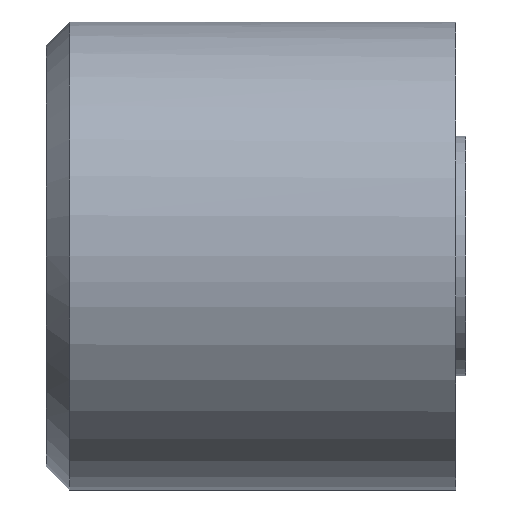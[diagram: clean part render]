
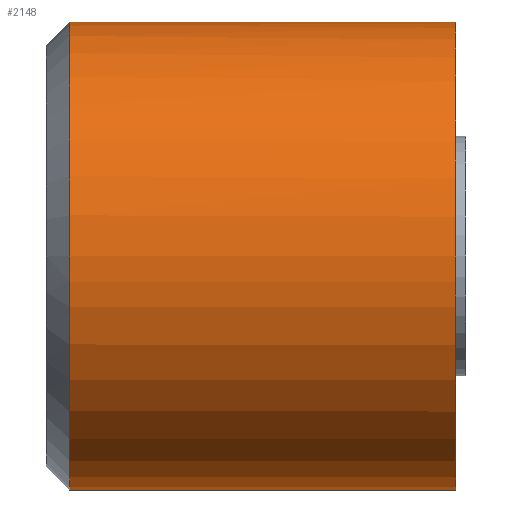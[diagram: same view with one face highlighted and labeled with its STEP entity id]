
A CAD part, front view. The second image highlights one B-rep face of the part: STEP entity #2148.
In plain terms, the highlighted cylindrical face has radius 8 mm (diameter 16 mm), a partial arc.
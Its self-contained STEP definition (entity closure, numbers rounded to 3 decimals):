
#124=CARTESIAN_POINT('Vertex',(0.,0.,-8.)) ;
#130=CARTESIAN_POINT('Control Point',(0.,-8.,0.)) ;
#131=CARTESIAN_POINT('Control Point',(0.,-8.,-0.831)) ;
#132=CARTESIAN_POINT('Control Point',(0.,-7.892,-1.663)) ;
#133=CARTESIAN_POINT('Control Point',(0.,-7.676,-2.475)) ;
#134=CARTESIAN_POINT('Control Point',(0.,-7.038,-4.026)) ;
#135=CARTESIAN_POINT('Control Point',(0.,-6.025,-5.362)) ;
#136=CARTESIAN_POINT('Control Point',(0.,-5.434,-5.96)) ;
#137=CARTESIAN_POINT('Control Point',(0.,-4.11,-6.989)) ;
#138=CARTESIAN_POINT('Control Point',(0.,-2.567,-7.646)) ;
#139=CARTESIAN_POINT('Control Point',(0.,-1.757,-7.872)) ;
#140=CARTESIAN_POINT('Control Point',(0.,-0.908,-7.992)) ;
#141=CARTESIAN_POINT('Control Point',(0.,-0.057,-8.)) ;
#142=CARTESIAN_POINT('Control Point',(0.,-0.038,-8.)) ;
#143=CARTESIAN_POINT('Control Point',(0.,-0.019,-8.)) ;
#144=CARTESIAN_POINT('Control Point',(0.,0.,-8.)) ;
#145=CARTESIAN_POINT('Vertex',(0.,-8.,0.)) ;
#149=CARTESIAN_POINT('Control Point',(0.,0.,8.)) ;
#150=CARTESIAN_POINT('Control Point',(0.,-0.812,8.)) ;
#151=CARTESIAN_POINT('Control Point',(0.,-1.625,7.897)) ;
#152=CARTESIAN_POINT('Control Point',(0.,-2.419,7.691)) ;
#153=CARTESIAN_POINT('Control Point',(0.,-3.957,7.074)) ;
#154=CARTESIAN_POINT('Control Point',(0.,-5.29,6.088)) ;
#155=CARTESIAN_POINT('Control Point',(0.,-5.895,5.504)) ;
#156=CARTESIAN_POINT('Control Point',(0.,-6.94,4.193)) ;
#157=CARTESIAN_POINT('Control Point',(0.,-7.615,2.658)) ;
#158=CARTESIAN_POINT('Control Point',(0.,-7.85,1.851)) ;
#159=CARTESIAN_POINT('Control Point',(0.,-7.984,0.984)) ;
#160=CARTESIAN_POINT('Control Point',(0.,-7.999,0.115)) ;
#161=CARTESIAN_POINT('Control Point',(0.,-8.,0.076)) ;
#162=CARTESIAN_POINT('Control Point',(0.,-8.,0.038)) ;
#163=CARTESIAN_POINT('Control Point',(0.,-8.,0.)) ;
#164=CARTESIAN_POINT('Vertex',(0.,0.,8.)) ;
#2082=CARTESIAN_POINT('Line Origine',(14.,0.,8.)) ;
#2086=CARTESIAN_POINT('Vertex',(13.2,0.,8.)) ;
#2103=CARTESIAN_POINT('Vertex',(13.2,0.,-8.)) ;
#2106=CARTESIAN_POINT('Line Origine',(14.,0.,-8.)) ;
#2120=CARTESIAN_POINT('Axis2P3D Location',(14.,0.,0.)) ;
#2125=CARTESIAN_POINT('Axis2P3D Location',(13.2,0.,0.)) ;
#2129=CARTESIAN_POINT('Vertex',(13.2,-8.,0.)) ;
#2133=CARTESIAN_POINT('Control Point',(13.2,0.,8.)) ;
#2134=CARTESIAN_POINT('Control Point',(13.2,-2.513,8.)) ;
#2135=CARTESIAN_POINT('Control Point',(13.2,-5.029,7.016)) ;
#2136=CARTESIAN_POINT('Control Point',(13.2,-7.016,5.029)) ;
#2137=CARTESIAN_POINT('Control Point',(13.2,-8.,2.513)) ;
#2138=CARTESIAN_POINT('Control Point',(13.2,-8.,0.)) ;
#2083=DIRECTION('Vector Direction',(-1.,0.,0.)) ;
#2107=DIRECTION('Vector Direction',(-1.,0.,0.)) ;
#2121=DIRECTION('Axis2P3D Direction',(-1.,-0.,-0.)) ;
#2122=DIRECTION('Axis2P3D XDirection',(0.,0.,-1.)) ;
#2126=DIRECTION('Axis2P3D Direction',(-1.,-0.,-0.)) ;
#2123=AXIS2_PLACEMENT_3D('Cylinder Axis2P3D',#2120,#2121,#2122) ;
#2127=AXIS2_PLACEMENT_3D('Circle Axis2P3D',#2125,#2126,$) ;
#2141=ORIENTED_EDGE('',*,*,#2110,.T.) ;
#2142=ORIENTED_EDGE('',*,*,#2131,.F.) ;
#2143=ORIENTED_EDGE('',*,*,#2139,.F.) ;
#2144=ORIENTED_EDGE('',*,*,#2088,.T.) ;
#2145=ORIENTED_EDGE('',*,*,#166,.T.) ;
#2146=ORIENTED_EDGE('',*,*,#147,.T.) ;
#2084=VECTOR('Line Direction',#2083,1.) ;
#2108=VECTOR('Line Direction',#2107,1.) ;
#2148=ADVANCED_FACE('D374-16-A-DM-FA',(#2147),#2124,.T.) ;
#129=B_SPLINE_CURVE_WITH_KNOTS('',5,(#130,#131,#132,#133,#134,#135,#136,#137,#138,#139,#140,#141,#142,#143,#144),.UNSPECIFIED.,.F.,.U.,(6,3,3,3,6),(0.,5.879,11.757,17.636,17.771),.UNSPECIFIED.) ;
#148=B_SPLINE_CURVE_WITH_KNOTS('',5,(#149,#150,#151,#152,#153,#154,#155,#156,#157,#158,#159,#160,#161,#162,#163),.UNSPECIFIED.,.F.,.U.,(6,3,3,3,6),(17.771,23.515,29.393,35.272,35.543),.UNSPECIFIED.) ;
#2132=B_SPLINE_CURVE_WITH_KNOTS('',5,(#2133,#2134,#2135,#2136,#2137,#2138),.UNSPECIFIED.,.F.,.U.,(6,6),(-6.283,6.283),.UNSPECIFIED.) ;
#2128=CIRCLE('generated circle',#2127,8.) ;
#2124=CYLINDRICAL_SURFACE('generated cylinder',#2123,8.) ;
#147=EDGE_CURVE('',#146,#125,#129,.T.) ;
#166=EDGE_CURVE('',#165,#146,#148,.T.) ;
#2088=EDGE_CURVE('',#2087,#165,#2085,.T.) ;
#2110=EDGE_CURVE('',#125,#2104,#2109,.F.) ;
#2131=EDGE_CURVE('',#2130,#2104,#2128,.F.) ;
#2139=EDGE_CURVE('',#2087,#2130,#2132,.T.) ;
#2140=EDGE_LOOP('',(#2141,#2142,#2143,#2144,#2145,#2146)) ;
#2147=FACE_OUTER_BOUND('',#2140,.T.) ;
#2085=LINE('Line',#2082,#2084) ;
#2109=LINE('Line',#2106,#2108) ;
#125=VERTEX_POINT('',#124) ;
#146=VERTEX_POINT('',#145) ;
#165=VERTEX_POINT('',#164) ;
#2087=VERTEX_POINT('',#2086) ;
#2104=VERTEX_POINT('',#2103) ;
#2130=VERTEX_POINT('',#2129) ;
